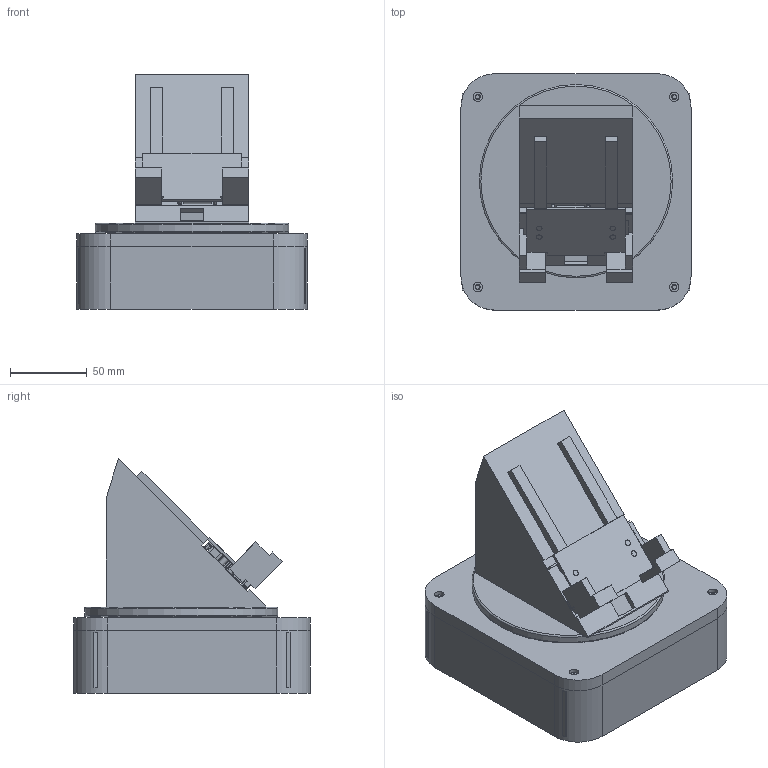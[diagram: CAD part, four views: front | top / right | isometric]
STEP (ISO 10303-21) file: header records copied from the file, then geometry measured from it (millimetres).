
FILE_DESCRIPTION(('Open CASCADE Model'),'2;1');
FILE_NAME('Open CASCADE Shape Model','2026-11-24T20:33:41',('Author'),( 'Open CASCADE'),'Open CASCADE STEP processor 7.8','Open CASCADE 7.8' ,'Unknown');
FILE_SCHEMA(('AUTOMOTIVE_DESIGN { 1 0 10303 214 1 1 1 1 }'));
Length unit declared in the file: millimetre
Products named in the file (27): HachimoDock_R03; 01_Base; 02_Base_Lid; 03_Rotor; 07_Driven_48T; 08_Servo_24T; 09_Shaft_Spacer; 04_Wedge_45deg; 05_Jaw_Left; 06_Jaw_Right; 10_Clamp_Cover; 11_Clamp_Pinion; REF_Stop_Right_1; REF_Stop_Left_1; REF_Stop_Right_2; REF_Stop_Left_2; REF_Pinion_Shaft; REF_Cover_Screw_1; REF_Cover_Screw_2; REF_Cover_Screw_3; REF_Cover_Screw_4; REF_Spring_Right; REF_Spring_Left; REF_Fixed_Eye_Right; REF_Fixed_Eye_Left; REF_Moving_Eye_Right; REF_Moving_Eye_Left
Assembly tree (26 placements, depth 2):
  HachimoDock_R03
    01_Base
    02_Base_Lid
    03_Rotor
    07_Driven_48T
    08_Servo_24T
    09_Shaft_Spacer
    04_Wedge_45deg
    05_Jaw_Left
    06_Jaw_Right
    10_Clamp_Cover
    11_Clamp_Pinion
    REF_Stop_Right_1
    REF_Stop_Left_1
    REF_Stop_Right_2
    REF_Stop_Left_2
    REF_Pinion_Shaft
    REF_Cover_Screw_1
    REF_Cover_Screw_2
    REF_Cover_Screw_3
    REF_Cover_Screw_4
    REF_Spring_Right
    REF_Spring_Left
    REF_Fixed_Eye_Right
    REF_Fixed_Eye_Left
    REF_Moving_Eye_Right
    REF_Moving_Eye_Left
Bounding box: 150 x 154 x 153 mm (x, y, z)
Volume: 545447.9 mm3; surface area: 257044 mm2
Topology: 26 solids, 26 shells, 1602 faces, 4413 edges, 2938 vertices
Faces by surface type: plane 1462, cylinder 126, cone 12, torus 2
Full cylindrical faces by diameter (mm): 1.6 x4, 1.7 x4, 1.82 x4, 1.9 x6, 2.1 x2, 2.16 x6, 2.24 x4, 2.3 x4, 2.34 x1, 2.4 x3, 2.44 x1, 2.7 x8, 2.72 x2, 2.76 x4, 2.8 x1, 3 x4, 3.18 x1, 3.2 x2, 3.26 x1, 3.3 x4, 3.32 x4, 3.8 x4, 5.3 x1, 6.2 x4, 8.3 x2, 10.2 x4, 15 x2, 15.779 x2, 24.82 x1, 25.04 x1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
Entity records: 106443 total; most frequent: CARTESIAN_POINT 19971, DIRECTION 14830, LINE 10632, VECTOR 10632, ORIENTED_EDGE 8826, PCURVE 8826, DEFINITIONAL_REPRESENTATION 8826, EDGE_CURVE 4413
